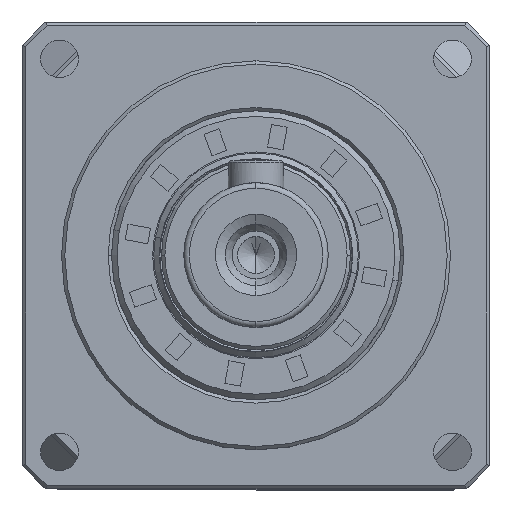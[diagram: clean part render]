
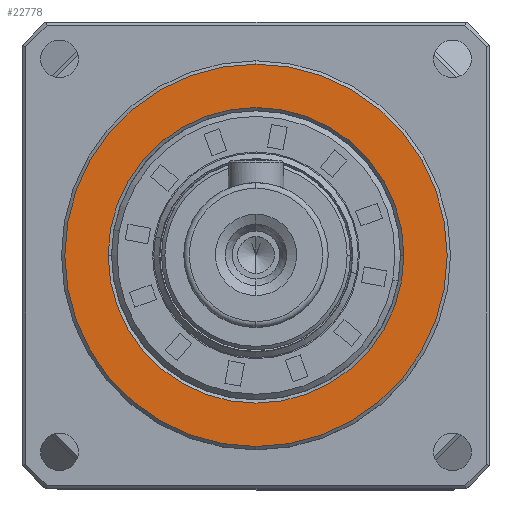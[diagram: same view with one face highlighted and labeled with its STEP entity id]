
A CAD part, top view. The second image highlights one B-rep face of the part: STEP entity #22778.
In plain terms, the highlighted planar face has unit normal (0, 0, 1).
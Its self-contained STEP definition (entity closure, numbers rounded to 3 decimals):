
#1439 = DIRECTION ( 'NONE',  ( 0., 1., 0. ) ) ;
#4195 = CARTESIAN_POINT ( 'NONE',  ( -10.743, 5.01, 58.25 ) ) ;
#7406 = CIRCLE ( 'NONE', #11866, 13.3 ) ;
#8027 = VERTEX_POINT ( 'NONE', #14279 ) ;
#10193 = DIRECTION ( 'NONE',  ( 0., 1., 0. ) ) ;
#11866 = AXIS2_PLACEMENT_3D ( 'NONE', #19017, #60626, #25040 ) ;
#12052 = AXIS2_PLACEMENT_3D ( 'NONE', #22093, #63650, #28074 ) ;
#12845 = VERTEX_POINT ( 'NONE', #28755 ) ;
#13278 = EDGE_CURVE ( 'NONE', #12845, #59472, #41648, .T. ) ;
#14279 = CARTESIAN_POINT ( 'NONE',  ( 2.557, 5.01, 58.25 ) ) ;
#17805 = PLANE ( 'NONE',  #51827 ) ;
#18053 = CARTESIAN_POINT ( 'NONE',  ( -10.743, 5.01, 58.25 ) ) ;
#19017 = CARTESIAN_POINT ( 'NONE',  ( -10.743, 5.01, 58.25 ) ) ;
#19493 = ORIENTED_EDGE ( 'NONE', *, *, #57079, .T. ) ;
#20569 = EDGE_LOOP ( 'NONE', ( #19493, #37618 ) ) ;
#22093 = CARTESIAN_POINT ( 'NONE',  ( -10.743, 5.01, 58.25 ) ) ;
#22778 = ADVANCED_FACE ( 'NONE', ( #42408, #74033 ), #17805, .T. ) ;
#24058 = DIRECTION ( 'NONE',  ( 1., 0., 0. ) ) ;
#25040 = DIRECTION ( 'NONE',  ( 1., 0., 0. ) ) ;
#28074 = DIRECTION ( 'NONE',  ( 1., 0., 0. ) ) ;
#28755 = CARTESIAN_POINT ( 'NONE',  ( -10.743, -12.19, 58.25 ) ) ;
#31479 = AXIS2_PLACEMENT_3D ( 'NONE', #4195, #45845, #10193 ) ;
#32145 = EDGE_CURVE ( 'NONE', #68094, #8027, #76095, .T. ) ;
#36821 = EDGE_CURVE ( 'NONE', #59472, #12845, #61978, .T. ) ;
#37180 = DIRECTION ( 'NONE',  ( 0., 0., -1. ) ) ;
#37618 = ORIENTED_EDGE ( 'NONE', *, *, #32145, .T. ) ;
#41648 = CIRCLE ( 'NONE', #31479, 17.2 ) ;
#42408 = FACE_OUTER_BOUND ( 'NONE', #50433, .T. ) ;
#45437 = ORIENTED_EDGE ( 'NONE', *, *, #13278, .F. ) ;
#45845 = DIRECTION ( 'NONE',  ( 0., 0., -1. ) ) ;
#50433 = EDGE_LOOP ( 'NONE', ( #57879, #45437 ) ) ;
#51827 = AXIS2_PLACEMENT_3D ( 'NONE', #18053, #59671, #24058 ) ;
#52455 = CARTESIAN_POINT ( 'NONE',  ( -24.043, 5.01, 58.25 ) ) ;
#55834 = CARTESIAN_POINT ( 'NONE',  ( -10.743, 22.21, 58.25 ) ) ;
#57079 = EDGE_CURVE ( 'NONE', #8027, #68094, #7406, .T. ) ;
#57879 = ORIENTED_EDGE ( 'NONE', *, *, #36821, .F. ) ;
#59472 = VERTEX_POINT ( 'NONE', #55834 ) ;
#59671 = DIRECTION ( 'NONE',  ( 0., 0., 1. ) ) ;
#60626 = DIRECTION ( 'NONE',  ( 0., 0., -1. ) ) ;
#61978 = CIRCLE ( 'NONE', #71337, 17.2 ) ;
#63650 = DIRECTION ( 'NONE',  ( 0., 0., -1. ) ) ;
#68094 = VERTEX_POINT ( 'NONE', #52455 ) ;
#71337 = AXIS2_PLACEMENT_3D ( 'NONE', #72763, #37180, #1439 ) ;
#72763 = CARTESIAN_POINT ( 'NONE',  ( -10.743, 5.01, 58.25 ) ) ;
#74033 = FACE_BOUND ( 'NONE', #20569, .T. ) ;
#76095 = CIRCLE ( 'NONE', #12052, 13.3 ) ;
